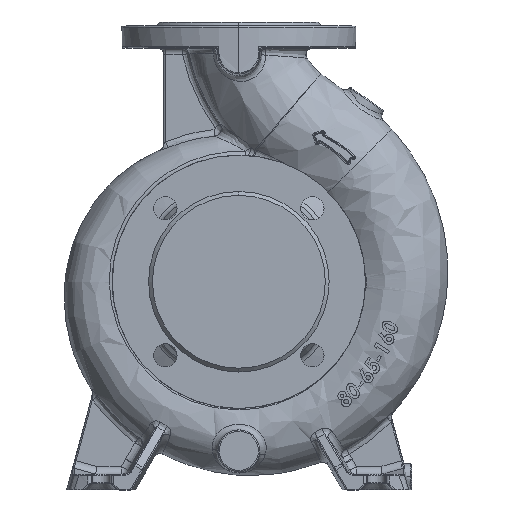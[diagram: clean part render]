
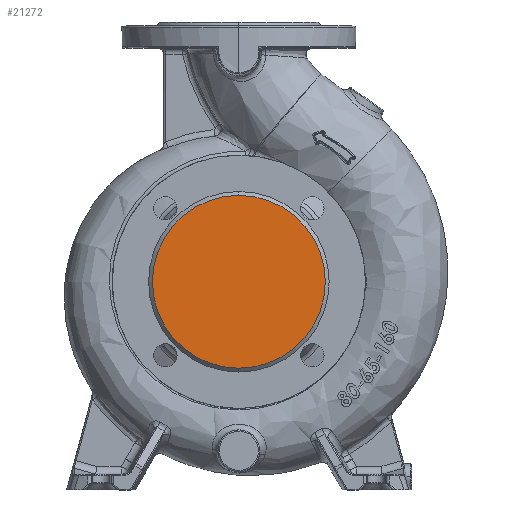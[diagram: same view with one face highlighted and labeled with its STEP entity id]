
A CAD part, top view. The second image highlights one B-rep face of the part: STEP entity #21272.
In plain terms, the highlighted planar face has unit normal (0, 0, 1).
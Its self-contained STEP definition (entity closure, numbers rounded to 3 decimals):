
#4006 = CARTESIAN_POINT ( 'NONE',  ( 0., -66.5, 100. ) ) ;
#5793 = EDGE_CURVE ( 'NONE', #20688, #11335, #60800, .T. ) ;
#6065 = DIRECTION ( 'NONE',  ( 0., 1., 0. ) ) ;
#8629 = PLANE ( 'NONE',  #53567 ) ;
#11335 = VERTEX_POINT ( 'NONE', #4006 ) ;
#13089 = CARTESIAN_POINT ( 'NONE',  ( 0., 66.5, 100. ) ) ;
#13751 = ORIENTED_EDGE ( 'NONE', *, *, #52002, .F. ) ;
#17870 = CARTESIAN_POINT ( 'NONE',  ( 0., 0., 100. ) ) ;
#20688 = VERTEX_POINT ( 'NONE', #13089 ) ;
#21272 = ADVANCED_FACE ( 'NONE', ( #53440 ), #8629, .F. ) ;
#26530 = ORIENTED_EDGE ( 'NONE', *, *, #5793, .F. ) ;
#27767 = EDGE_LOOP ( 'NONE', ( #26530, #13751 ) ) ;
#29522 = DIRECTION ( 'NONE',  ( 0., 0., -1. ) ) ;
#31791 = AXIS2_PLACEMENT_3D ( 'NONE', #38443, #38232, #57609 ) ;
#38232 = DIRECTION ( 'NONE',  ( 0., 0., -1. ) ) ;
#38443 = CARTESIAN_POINT ( 'NONE',  ( 0., 0., 100. ) ) ;
#42110 = DIRECTION ( 'NONE',  ( 0., 0., -1. ) ) ;
#48729 = CARTESIAN_POINT ( 'NONE',  ( 0., 0., 100. ) ) ;
#50580 = AXIS2_PLACEMENT_3D ( 'NONE', #48729, #29522, #6065 ) ;
#52002 = EDGE_CURVE ( 'NONE', #11335, #20688, #56699, .T. ) ;
#53440 = FACE_OUTER_BOUND ( 'NONE', #27767, .T. ) ;
#53567 = AXIS2_PLACEMENT_3D ( 'NONE', #17870, #42110, #55655 ) ;
#55655 = DIRECTION ( 'NONE',  ( 0., 1., 0. ) ) ;
#56699 = CIRCLE ( 'NONE', #31791, 66.5 ) ;
#57609 = DIRECTION ( 'NONE',  ( 0., 1., 0. ) ) ;
#60800 = CIRCLE ( 'NONE', #50580, 66.5 ) ;
